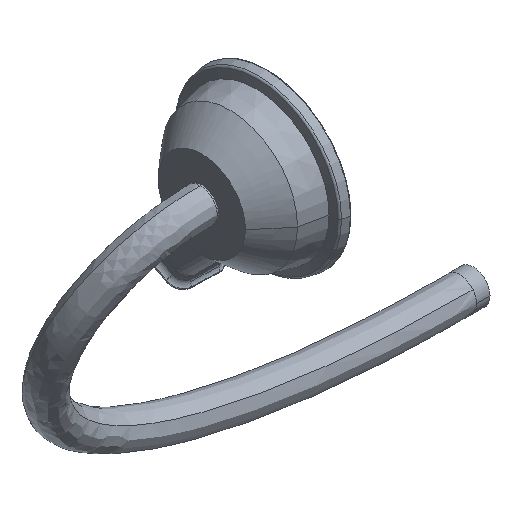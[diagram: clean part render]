
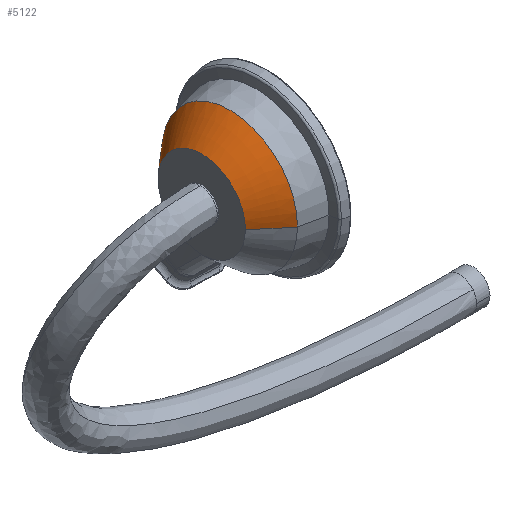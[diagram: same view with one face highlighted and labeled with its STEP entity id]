
A CAD part, isometric view. The second image highlights one B-rep face of the part: STEP entity #5122.
In plain terms, the highlighted toroidal (fillet/blend) face has major radius 495.487 mm and minor radius 759.141 mm.
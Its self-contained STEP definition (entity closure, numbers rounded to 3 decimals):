
#43 = CARTESIAN_POINT ( 'NONE',  ( 473.505, -495.487, 2150. ) ) ;
#358 = ORIENTED_EDGE ( 'NONE', *, *, #5840, .F. ) ;
#431 = CIRCLE ( 'NONE', #4089, 759.141 ) ;
#448 = AXIS2_PLACEMENT_3D ( 'NONE', #5793, #477, #3252 ) ;
#477 = DIRECTION ( 'NONE',  ( -1., 0., 0. ) ) ;
#564 = CARTESIAN_POINT ( 'NONE',  ( -38.5, 0., 2150. ) ) ;
#643 = EDGE_LOOP ( 'NONE', ( #1870, #4785, #6418, #358 ) ) ;
#847 = CARTESIAN_POINT ( 'NONE',  ( -38.5, 65., 2150. ) ) ;
#1567 = CARTESIAN_POINT ( 'NONE',  ( 3.5, 0., 2150. ) ) ;
#1674 = EDGE_CURVE ( 'NONE', #3389, #2945, #3417, .T. ) ;
#1714 = EDGE_CURVE ( 'NONE', #2347, #2945, #431, .T. ) ;
#1819 = CARTESIAN_POINT ( 'NONE',  ( 473.505, 495.487, 2150. ) ) ;
#1870 = ORIENTED_EDGE ( 'NONE', *, *, #2242, .F. ) ;
#2098 = TOROIDAL_SURFACE ( 'NONE', #448, -495.487, 759.141 ) ;
#2197 = AXIS2_PLACEMENT_3D ( 'NONE', #1567, #2630, #3692 ) ;
#2242 = EDGE_CURVE ( 'NONE', #2347, #4911, #4540, .T. ) ;
#2347 = VERTEX_POINT ( 'NONE', #4814 ) ;
#2630 = DIRECTION ( 'NONE',  ( 1., 0., 0. ) ) ;
#2696 = DIRECTION ( 'NONE',  ( -1., 0., 0. ) ) ;
#2945 = VERTEX_POINT ( 'NONE', #847 ) ;
#3035 = CARTESIAN_POINT ( 'NONE',  ( -38.5, -65., 2150. ) ) ;
#3199 = AXIS2_PLACEMENT_3D ( 'NONE', #564, #2696, #6449 ) ;
#3252 = DIRECTION ( 'NONE',  ( 0., -1., 0. ) ) ;
#3389 = VERTEX_POINT ( 'NONE', #3035 ) ;
#3417 = CIRCLE ( 'NONE', #3199, 65. ) ;
#3433 = CIRCLE ( 'NONE', #5539, 759.141 ) ;
#3692 = DIRECTION ( 'NONE',  ( 0., 1., 0. ) ) ;
#3800 = DIRECTION ( 'NONE',  ( 0., -1., 0. ) ) ;
#4089 = AXIS2_PLACEMENT_3D ( 'NONE', #43, #4290, #3800 ) ;
#4200 = CARTESIAN_POINT ( 'NONE',  ( 3.5, -100.659, 2150. ) ) ;
#4290 = DIRECTION ( 'NONE',  ( 0., 0., 1. ) ) ;
#4540 = CIRCLE ( 'NONE', #2197, 100.659 ) ;
#4785 = ORIENTED_EDGE ( 'NONE', *, *, #1714, .T. ) ;
#4814 = CARTESIAN_POINT ( 'NONE',  ( 3.5, 100.659, 2150. ) ) ;
#4911 = VERTEX_POINT ( 'NONE', #4200 ) ;
#5122 = ADVANCED_FACE ( 'NONE', ( #6792 ), #2098, .T. ) ;
#5504 = DIRECTION ( 'NONE',  ( 0., 1., 0. ) ) ;
#5539 = AXIS2_PLACEMENT_3D ( 'NONE', #1819, #6464, #5504 ) ;
#5793 = CARTESIAN_POINT ( 'NONE',  ( 473.505, 0., 2150. ) ) ;
#5840 = EDGE_CURVE ( 'NONE', #4911, #3389, #3433, .T. ) ;
#6418 = ORIENTED_EDGE ( 'NONE', *, *, #1674, .F. ) ;
#6449 = DIRECTION ( 'NONE',  ( 0., 0., -1. ) ) ;
#6464 = DIRECTION ( 'NONE',  ( 0., 0., -1. ) ) ;
#6792 = FACE_OUTER_BOUND ( 'NONE', #643, .T. ) ;
